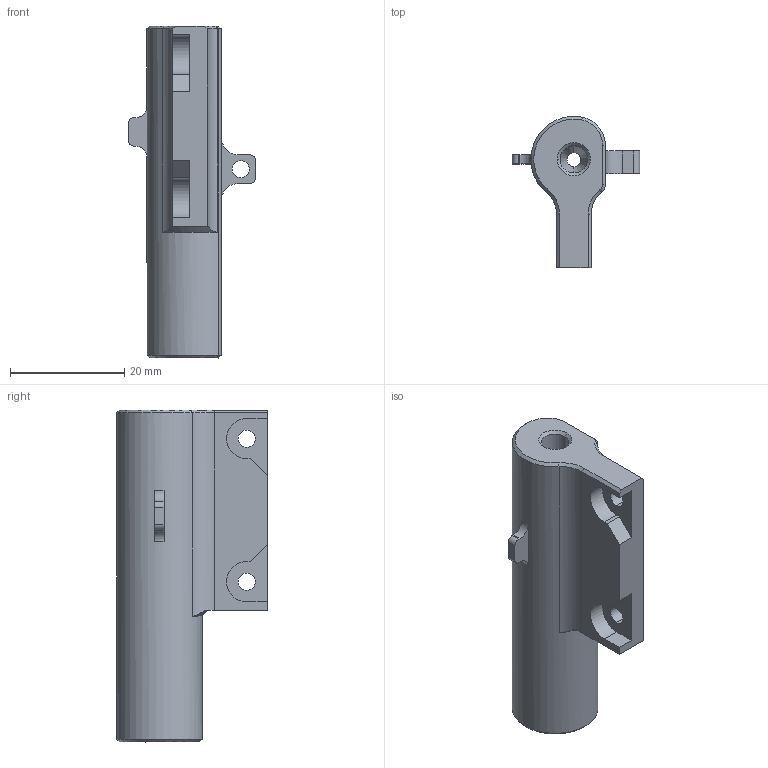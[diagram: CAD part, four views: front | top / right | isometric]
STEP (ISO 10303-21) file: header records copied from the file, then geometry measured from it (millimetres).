
FILE_DESCRIPTION((''),'2;1');
FILE_NAME('_JJJ0003','2025-04-16T16:49:21',('Mayn'),(''),'CREO PARAMETRIC BY PTC INC, 2024063','CREO PARAMETRIC BY PTC INC, 2024063','');
FILE_SCHEMA(('CONFIG_CONTROL_DESIGN'));
Length unit declared in the file: millimetre
Products named in the file (1): _JJJ0003
Bounding box: 22.25 x 26.37 x 58 mm (x, y, z)
Volume: 10431.3 mm3; surface area: 5051.7 mm2
Topology: 1 solids, 1 shells, 81 faces, 202 edges, 128 vertices
Faces by surface type: plane 32, cylinder 29, cone 18, torus 2
Entity records: 2508 total; most frequent: CARTESIAN_POINT 459, DIRECTION 440, ORIENTED_EDGE 404, EDGE_CURVE 202, AXIS2_PLACEMENT_3D 163, VERTEX_POINT 128, VECTOR 114, LINE 114
